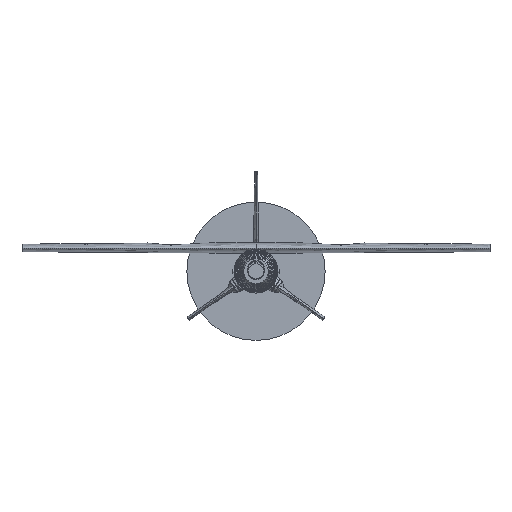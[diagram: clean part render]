
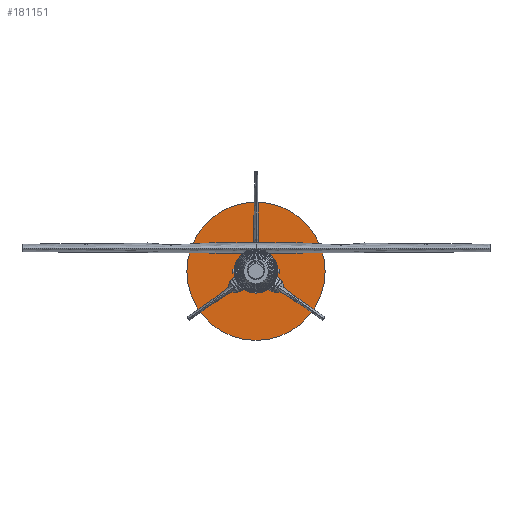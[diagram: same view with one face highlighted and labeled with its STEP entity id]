
A CAD part, left-side view. The second image highlights one B-rep face of the part: STEP entity #181151.
In plain terms, the highlighted planar face has unit normal (-1, 0, 0).
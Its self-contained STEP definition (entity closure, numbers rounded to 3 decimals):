
#181073 = CYLINDRICAL_SURFACE('',#181074,63.5);
#181074 = AXIS2_PLACEMENT_3D('',#181075,#181076,#181077);
#181075 = CARTESIAN_POINT('',(450.85,0.,0.));
#181076 = DIRECTION('',(1.,0.,0.));
#181077 = DIRECTION('',(-0.,0.,1.));
#181098 = VERTEX_POINT('',#181099);
#181099 = CARTESIAN_POINT('',(450.85,0.,63.5));
#181120 = EDGE_CURVE('',#181098,#181098,#181121,.T.);
#181121 = SURFACE_CURVE('',#181122,(#181127,#181134),.PCURVE_S1.);
#181122 = CIRCLE('',#181123,63.5);
#181123 = AXIS2_PLACEMENT_3D('',#181124,#181125,#181126);
#181124 = CARTESIAN_POINT('',(450.85,0.,0.));
#181125 = DIRECTION('',(1.,0.,0.));
#181126 = DIRECTION('',(-0.,0.,1.));
#181127 = PCURVE('',#181073,#181128);
#181128 = DEFINITIONAL_REPRESENTATION('',(#181129),#181133);
#181129 = LINE('',#181130,#181131);
#181130 = CARTESIAN_POINT('',(0.,0.));
#181131 = VECTOR('',#181132,1.);
#181132 = DIRECTION('',(1.,0.));
#181133 = ( GEOMETRIC_REPRESENTATION_CONTEXT(2) 
PARAMETRIC_REPRESENTATION_CONTEXT() REPRESENTATION_CONTEXT('2D SPACE',''
  ) );
#181134 = PCURVE('',#181135,#181140);
#181135 = PLANE('',#181136);
#181136 = AXIS2_PLACEMENT_3D('',#181137,#181138,#181139);
#181137 = CARTESIAN_POINT('',(450.85,0.,0.));
#181138 = DIRECTION('',(1.,0.,0.));
#181139 = DIRECTION('',(-0.,0.,1.));
#181140 = DEFINITIONAL_REPRESENTATION('',(#181141),#181145);
#181141 = CIRCLE('',#181142,63.5);
#181142 = AXIS2_PLACEMENT_2D('',#181143,#181144);
#181143 = CARTESIAN_POINT('',(0.,0.));
#181144 = DIRECTION('',(1.,0.));
#181145 = ( GEOMETRIC_REPRESENTATION_CONTEXT(2) 
PARAMETRIC_REPRESENTATION_CONTEXT() REPRESENTATION_CONTEXT('2D SPACE',''
  ) );
#181151 = ADVANCED_FACE('',(#181152),#181135,.F.);
#181152 = FACE_BOUND('',#181153,.T.);
#181153 = EDGE_LOOP('',(#181154));
#181154 = ORIENTED_EDGE('',*,*,#181120,.F.);
